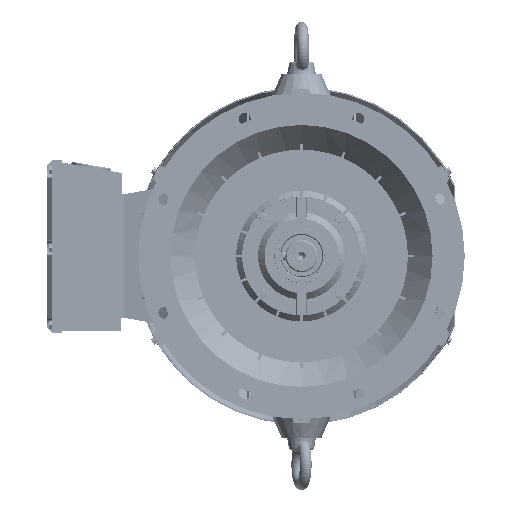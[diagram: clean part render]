
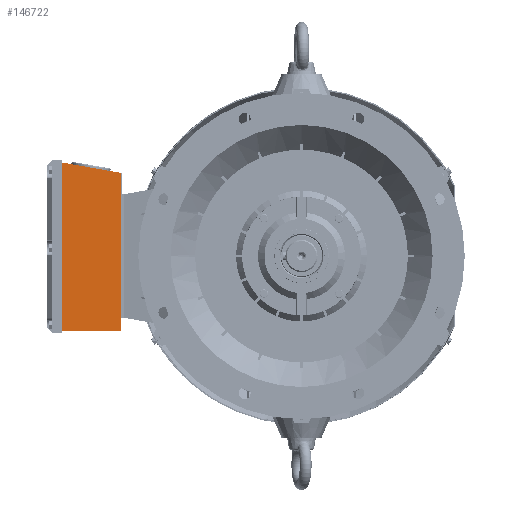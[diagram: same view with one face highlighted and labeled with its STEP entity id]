
A CAD part, left-side view. The second image highlights one B-rep face of the part: STEP entity #146722.
In plain terms, the highlighted planar face has unit normal (-1, 0, 0) as drawn and (0, 0, 1) by its records, which use the part's own axes.
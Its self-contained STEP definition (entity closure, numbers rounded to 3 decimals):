
#12606 = VERTEX_POINT ( 'NONE', #194314 ) ;
#13768 = EDGE_CURVE ( 'NONE', #152114, #65155, #110298, .T. ) ;
#27564 = DIRECTION ( 'NONE',  ( 0.174, 0.985, 0. ) ) ;
#28809 = EDGE_CURVE ( 'NONE', #65155, #140359, #173522, .T. ) ;
#32644 = CARTESIAN_POINT ( 'NONE',  ( 319.029, 3., 140. ) ) ;
#42519 = DIRECTION ( 'NONE',  ( 1., 0., 0. ) ) ;
#53142 = DIRECTION ( 'NONE',  ( 0., 0., 1. ) ) ;
#65155 = VERTEX_POINT ( 'NONE', #199654 ) ;
#70773 = CARTESIAN_POINT ( 'NONE',  ( 0., 122., 140. ) ) ;
#73177 = PLANE ( 'NONE',  #96352 ) ;
#81452 = EDGE_LOOP ( 'NONE', ( #184308, #214049, #106167, #157851 ) ) ;
#87918 = DIRECTION ( 'NONE',  ( 1., 0., 0. ) ) ;
#91571 = CARTESIAN_POINT ( 'NONE',  ( 318.5, 0., 140. ) ) ;
#96352 = AXIS2_PLACEMENT_3D ( 'NONE', #154596, #53142, #87918 ) ;
#97116 = VECTOR ( 'NONE', #42519, 1000. ) ;
#104990 = VECTOR ( 'NONE', #150886, 1000. ) ;
#106167 = ORIENTED_EDGE ( 'NONE', *, *, #28809, .T. ) ;
#110298 = LINE ( 'NONE', #91571, #154009 ) ;
#115033 = CARTESIAN_POINT ( 'NONE',  ( 0., 122., 140. ) ) ;
#120621 = EDGE_CURVE ( 'NONE', #140359, #12606, #174821, .T. ) ;
#138967 = CARTESIAN_POINT ( 'NONE',  ( 0., 3., 140. ) ) ;
#140359 = VERTEX_POINT ( 'NONE', #115033 ) ;
#140558 = EDGE_CURVE ( 'NONE', #12606, #152114, #260498, .T. ) ;
#146722 = ADVANCED_FACE ( 'NONE', ( #256052 ), #73177, .T. ) ;
#150886 = DIRECTION ( 'NONE',  ( -1., 0., 0. ) ) ;
#152114 = VERTEX_POINT ( 'NONE', #32644 ) ;
#154009 = VECTOR ( 'NONE', #27564, 1000. ) ;
#154596 = CARTESIAN_POINT ( 'NONE',  ( 26., 122., 140. ) ) ;
#157851 = ORIENTED_EDGE ( 'NONE', *, *, #120621, .T. ) ;
#173522 = LINE ( 'NONE', #70773, #104990 ) ;
#174821 = LINE ( 'NONE', #260201, #199185 ) ;
#184308 = ORIENTED_EDGE ( 'NONE', *, *, #140558, .T. ) ;
#194314 = CARTESIAN_POINT ( 'NONE',  ( 0., 3., 140. ) ) ;
#199185 = VECTOR ( 'NONE', #234936, 1000. ) ;
#199654 = CARTESIAN_POINT ( 'NONE',  ( 340.012, 122., 140. ) ) ;
#214049 = ORIENTED_EDGE ( 'NONE', *, *, #13768, .T. ) ;
#234936 = DIRECTION ( 'NONE',  ( 0., -1., 0. ) ) ;
#256052 = FACE_OUTER_BOUND ( 'NONE', #81452, .T. ) ;
#260201 = CARTESIAN_POINT ( 'NONE',  ( 0., 3., 140. ) ) ;
#260498 = LINE ( 'NONE', #138967, #97116 ) ;
